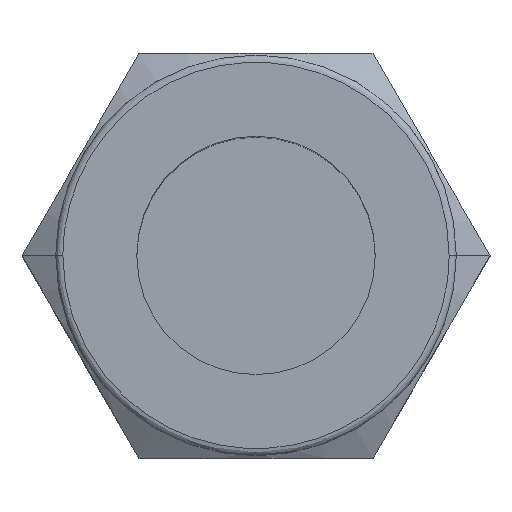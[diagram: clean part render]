
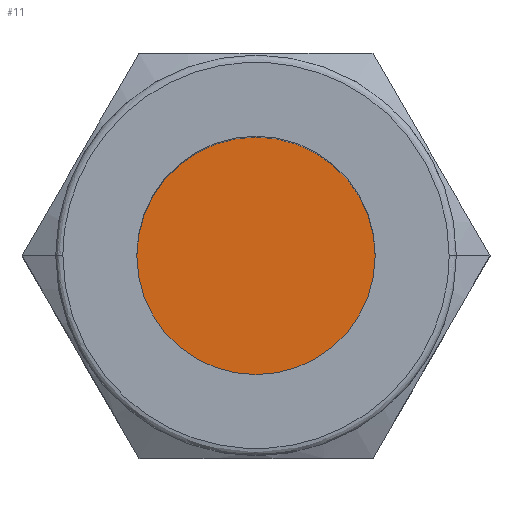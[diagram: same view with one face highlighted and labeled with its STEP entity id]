
A CAD part, top view. The second image highlights one B-rep face of the part: STEP entity #11.
In plain terms, the highlighted planar face has unit normal (0, 0, 1).
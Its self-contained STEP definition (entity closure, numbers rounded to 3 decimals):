
#11 = ADVANCED_FACE ( '13', ( #1307 ), #701, .T. ) ;
#148 = AXIS2_PLACEMENT_3D ( 'NONE', #1502, #702, #704 ) ;
#169 = CIRCLE ( 'NONE', #1061, 5. ) ;
#196 = CARTESIAN_POINT ( 'NONE',  ( -5., 0., 9.6 ) ) ;
#536 = CIRCLE ( 'NONE', #1027, 5. ) ;
#619 = EDGE_CURVE ( 'NONE', #1314, #1094, #536, .T. ) ;
#701 = PLANE ( 'NONE',  #148 ) ;
#702 = DIRECTION ( 'NONE',  ( 0., 0., 1. ) ) ;
#704 = DIRECTION ( 'NONE',  ( 1., 0., 0. ) ) ;
#916 = ORIENTED_EDGE ( 'NONE', *, *, #1121, .T. ) ;
#951 = ORIENTED_EDGE ( 'NONE', *, *, #619, .T. ) ;
#1027 = AXIS2_PLACEMENT_3D ( 'NONE', #1198, #1205, #1209 ) ;
#1061 = AXIS2_PLACEMENT_3D ( 'NONE', #1467, #1528, #1643 ) ;
#1094 = VERTEX_POINT ( 'NONE', #1735 ) ;
#1121 = EDGE_CURVE ( 'NONE', #1094, #1314, #169, .T. ) ;
#1198 = CARTESIAN_POINT ( 'NONE',  ( 0., 0., 9.6 ) ) ;
#1205 = DIRECTION ( 'NONE',  ( 0., 0., 1. ) ) ;
#1209 = DIRECTION ( 'NONE',  ( 1., 0., 0. ) ) ;
#1254 = EDGE_LOOP ( 'NONE', ( #916, #951 ) ) ;
#1307 = FACE_OUTER_BOUND ( 'NONE', #1254, .T. ) ;
#1314 = VERTEX_POINT ( 'NONE', #196 ) ;
#1467 = CARTESIAN_POINT ( 'NONE',  ( 0., 0., 9.6 ) ) ;
#1502 = CARTESIAN_POINT ( 'NONE',  ( 10.013, 2.683, 9.6 ) ) ;
#1528 = DIRECTION ( 'NONE',  ( 0., 0., 1. ) ) ;
#1643 = DIRECTION ( 'NONE',  ( 1., 0., 0. ) ) ;
#1735 = CARTESIAN_POINT ( 'NONE',  ( 5., 0., 9.6 ) ) ;
